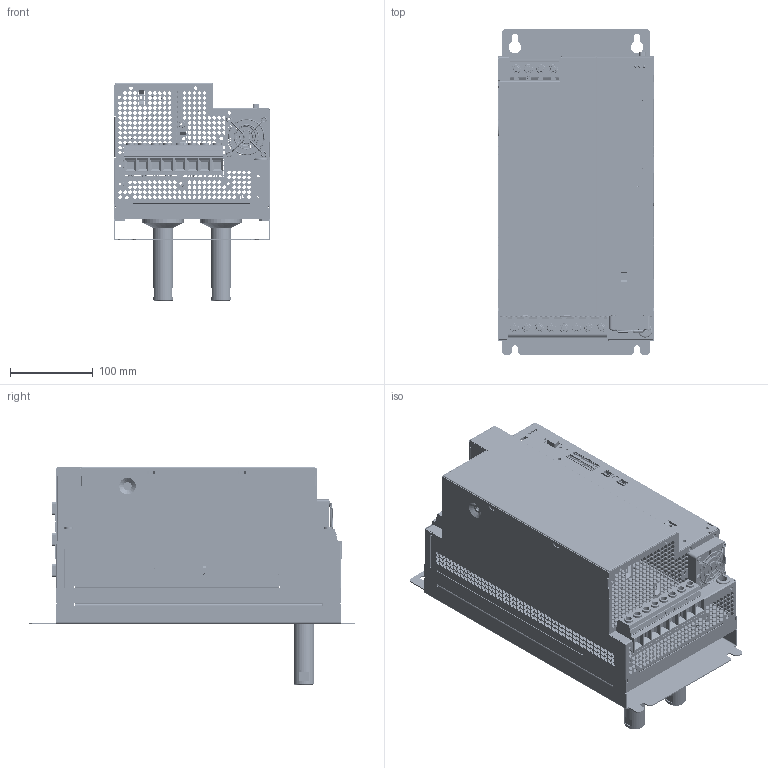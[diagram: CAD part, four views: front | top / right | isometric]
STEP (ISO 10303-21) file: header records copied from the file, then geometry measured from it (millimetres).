
FILE_DESCRIPTION (( 'STEP AP214' ), '1' );
FILE_NAME ('c-line BG6 Wasserkühlung.STEP', '2013-08-28T07:23:10', ( '' ), ( '' ), 'SwSTEP 2.0', 'SolidWorks 2012', '' );
FILE_SCHEMA (( 'AUTOMOTIVE_DESIGN' ));
Length unit declared in the file: millimetre
Products named in the file (21): Stecker 4pol; Stecker 2pol; Steuerprint CDE; 183_-01366-; 183_-01497-; 183_-01363G; 062-03986 Schutzgitter SC50-W1; 062-03761 Lüfter 50x50x15mm; 183_-01494-; 183_-01364-; Servo one BG5 Leistungsklemmen; 183-01465 Bezeichnungsstreifen; 183-01466 Bezeichnungsstreifen; MKDSP25-8-15; MKDSP25-4-15; 183_-01708-; 183_-01669- Teil3; 183_-01708- Teil2; 183_-01708- Teil1; 183_-01709-; c-line BG6 Wasserkühlung
Assembly tree (22 placements, depth 3):
  c-line BG6 Wasserkühlung
    183_-01709-
    183_-01708-
      183_-01708- Teil1
      183_-01708- Teil2
      183_-01669- Teil3  x2
    Servo one BG5 Leistungsklemmen
      MKDSP25-4-15
      MKDSP25-8-15
      183-01466 Bezeichnungsstreifen
      183-01465 Bezeichnungsstreifen
    183_-01364-
    183_-01494-
    062-03761 Lüfter 50x50x15mm
    062-03986 Schutzgitter SC50-W1
    183_-01363G
    183_-01497-
    183_-01366-
    Steuerprint CDE
    Stecker 2pol  x2
    Stecker 4pol
Bounding box: 190 x 394.25 x 263.5 mm (x, y, z)
Volume: 1931167.1 mm3; surface area: 1070674.4 mm2
Topology: 24 solids, 24 shells, 6509 faces, 18002 edges, 11795 vertices
Faces by surface type: plane 3120, bspline 2131, cylinder 1079, cone 118, torus 58, sphere 3
Entity records: 262704 total; most frequent: CARTESIAN_POINT 93922, ORIENTED_EDGE 35622, DIRECTION 22157, EDGE_CURVE 17811, VERTEX_POINT 11707, EDGE_LOOP 8974, LINE 8835, VECTOR 8835
